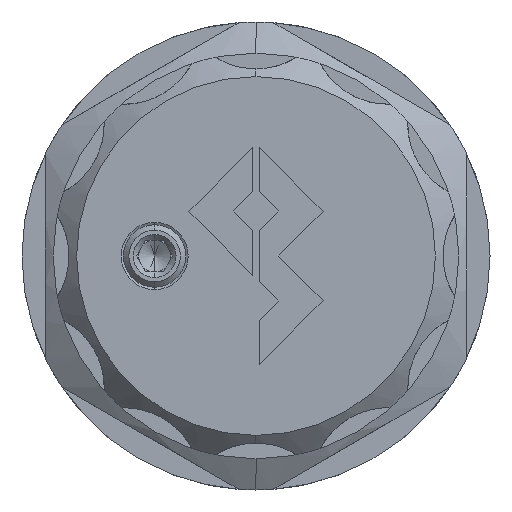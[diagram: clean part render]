
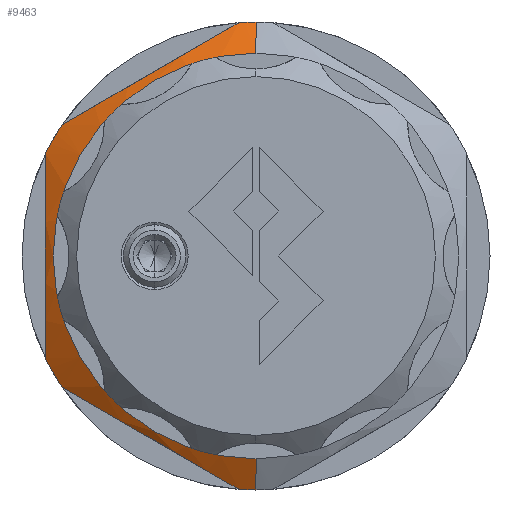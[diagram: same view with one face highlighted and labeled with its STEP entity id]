
A CAD part, left-side view. The second image highlights one B-rep face of the part: STEP entity #9463.
In plain terms, the highlighted conical face has half-angle 60 degrees and reference radius 13 mm.
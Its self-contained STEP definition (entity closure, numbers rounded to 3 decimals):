
#92 = FACE_OUTER_BOUND ( 'NONE', #4406, .T. ) ;
#288 = VERTEX_POINT ( 'NONE', #4157 ) ;
#382 = CARTESIAN_POINT ( 'NONE',  ( 13.29, 5.777, 12.253 ) ) ;
#424 = B_SPLINE_CURVE_WITH_KNOTS ( 'NONE', 3,
 ( #10836, #3110, #3903, #7322, #8121, #4860, #1223, #3001, #3061, #6544 ),
 .UNSPECIFIED., .F., .F.,
 ( 4, 2, 2, 2, 4 ),
 ( 0., 0.003, 0.007, 0.01, 0.013 ),
 .UNSPECIFIED. ) ;
#495 = CARTESIAN_POINT ( 'NONE',  ( 13.667, 2.951, 13.885 ) ) ;
#619 = ORIENTED_EDGE ( 'NONE', *, *, #2990, .T. ) ;
#790 = DIRECTION ( 'NONE',  ( 0., 0., 1. ) ) ;
#1186 = VERTEX_POINT ( 'NONE', #11090 ) ;
#1212 = VERTEX_POINT ( 'NONE', #10480 ) ;
#1223 = CARTESIAN_POINT ( 'NONE',  ( 13.367, 4.854, -12.786 ) ) ;
#1404 = CIRCLE ( 'NONE', #7726, 15. ) ;
#1430 = ORIENTED_EDGE ( 'NONE', *, *, #10614, .T. ) ;
#1436 = CARTESIAN_POINT ( 'NONE',  ( 14.155, 0., 0. ) ) ;
#1489 = CIRCLE ( 'NONE', #7815, 15. ) ;
#1493 = CARTESIAN_POINT ( 'NONE',  ( 13., 0., -13. ) ) ;
#1521 = CARTESIAN_POINT ( 'NONE',  ( 14.155, 13.5, -6.538 ) ) ;
#1609 = DIRECTION ( 'NONE',  ( -1., 0., 0. ) ) ;
#1730 = DIRECTION ( 'NONE',  ( 0., 0., 1. ) ) ;
#1789 = EDGE_CURVE ( 'NONE', #7580, #6195, #1489, .T. ) ;
#1951 = ORIENTED_EDGE ( 'NONE', *, *, #3534, .T. ) ;
#2119 = ORIENTED_EDGE ( 'NONE', *, *, #1789, .T. ) ;
#2164 = CARTESIAN_POINT ( 'NONE',  ( 13.885, 2.017, 14.424 ) ) ;
#2283 = CARTESIAN_POINT ( 'NONE',  ( 13., 0., 13. ) ) ;
#2334 = CARTESIAN_POINT ( 'NONE',  ( 13.886, 13.5, -5.47 ) ) ;
#2393 = CARTESIAN_POINT ( 'NONE',  ( 13.443, 13.5, 2.75 ) ) ;
#2446 = CARTESIAN_POINT ( 'NONE',  ( 13.289, 13.5, -1.099 ) ) ;
#2541 = ORIENTED_EDGE ( 'NONE', *, *, #5699, .T. ) ;
#2616 = CARTESIAN_POINT ( 'NONE',  ( 13., 0., 0. ) ) ;
#2830 = AXIS2_PLACEMENT_3D ( 'NONE', #6923, #5445, #1730 ) ;
#2990 = EDGE_CURVE ( 'NONE', #6195, #1186, #424, .T. ) ;
#3001 = CARTESIAN_POINT ( 'NONE',  ( 13.665, 2.958, -13.881 ) ) ;
#3061 = CARTESIAN_POINT ( 'NONE',  ( 13.884, 2.019, -14.423 ) ) ;
#3110 = CARTESIAN_POINT ( 'NONE',  ( 13.885, 11.483, -8.959 ) ) ;
#3228 = ORIENTED_EDGE ( 'NONE', *, *, #7015, .T. ) ;
#3309 = CARTESIAN_POINT ( 'NONE',  ( 13.367, 13.5, -2.194 ) ) ;
#3530 = CARTESIAN_POINT ( 'NONE',  ( 14.155, 0., 15. ) ) ;
#3534 = EDGE_CURVE ( 'NONE', #5981, #288, #1404, .T. ) ;
#3590 = DIRECTION ( 'NONE',  ( 1., 0., 0. ) ) ;
#3643 = LINE ( 'NONE', #6178, #9875 ) ;
#3838 = EDGE_CURVE ( 'NONE', #5397, #5981, #3643, .T. ) ;
#3903 = CARTESIAN_POINT ( 'NONE',  ( 13.667, 10.549, -9.498 ) ) ;
#3919 = AXIS2_PLACEMENT_3D ( 'NONE', #7377, #10672, #4600 ) ;
#3973 = B_SPLINE_CURVE_WITH_KNOTS ( 'NONE', 3,
 ( #6448, #2164, #495, #9061, #382, #5526, #7287, #10750, #4669, #3983 ),
 .UNSPECIFIED., .F., .F.,
 ( 4, 2, 2, 2, 4 ),
 ( 0., 0.003, 0.007, 0.01, 0.013 ),
 .UNSPECIFIED. ) ;
#3983 = CARTESIAN_POINT ( 'NONE',  ( 14.155, 12.412, 8.422 ) ) ;
#4157 = CARTESIAN_POINT ( 'NONE',  ( 14.155, 1.088, 14.961 ) ) ;
#4406 = EDGE_LOOP ( 'NONE', ( #6240, #7818, #1951, #2541, #1430, #5244, #2119, #619, #3228, #5398 ) ) ;
#4516 = VERTEX_POINT ( 'NONE', #5311 ) ;
#4600 = DIRECTION ( 'NONE',  ( 0., 0., 1. ) ) ;
#4669 = CARTESIAN_POINT ( 'NONE',  ( 13.884, 11.481, 8.96 ) ) ;
#4860 = CARTESIAN_POINT ( 'NONE',  ( 13.288, 5.818, -12.23 ) ) ;
#5244 = ORIENTED_EDGE ( 'NONE', *, *, #6506, .T. ) ;
#5311 = CARTESIAN_POINT ( 'NONE',  ( 14.155, 12.412, 8.422 ) ) ;
#5397 = VERTEX_POINT ( 'NONE', #2283 ) ;
#5398 = ORIENTED_EDGE ( 'NONE', *, *, #6560, .F. ) ;
#5445 = DIRECTION ( 'NONE',  ( -1., 0., 0. ) ) ;
#5526 = CARTESIAN_POINT ( 'NONE',  ( 13.288, 7.682, 11.153 ) ) ;
#5535 = CONICAL_SURFACE ( 'NONE', #7496, 13., 1.047 ) ;
#5699 = EDGE_CURVE ( 'NONE', #288, #4516, #3973, .T. ) ;
#5729 = CIRCLE ( 'NONE', #3919, 15. ) ;
#5774 = AXIS2_PLACEMENT_3D ( 'NONE', #1436, #1609, #7476 ) ;
#5812 = CARTESIAN_POINT ( 'NONE',  ( 14.155, 12.412, -8.422 ) ) ;
#5853 = CARTESIAN_POINT ( 'NONE',  ( 13.669, 13.5, 4.398 ) ) ;
#5911 = CARTESIAN_POINT ( 'NONE',  ( 14.155, 13.5, 6.538 ) ) ;
#5952 = CIRCLE ( 'NONE', #5774, 15. ) ;
#5981 = VERTEX_POINT ( 'NONE', #3530 ) ;
#6015 = DIRECTION ( 'NONE',  ( -1., 0., 0. ) ) ;
#6017 = VECTOR ( 'NONE', #8183, 1000. ) ;
#6178 = CARTESIAN_POINT ( 'NONE',  ( 13., 0., 13. ) ) ;
#6195 = VERTEX_POINT ( 'NONE', #5812 ) ;
#6240 = ORIENTED_EDGE ( 'NONE', *, *, #8793, .F. ) ;
#6448 = CARTESIAN_POINT ( 'NONE',  ( 14.155, 1.088, 14.961 ) ) ;
#6506 = EDGE_CURVE ( 'NONE', #7151, #7580, #7169, .T. ) ;
#6544 = CARTESIAN_POINT ( 'NONE',  ( 14.155, 1.088, -14.961 ) ) ;
#6560 = EDGE_CURVE ( 'NONE', #7166, #1212, #8293, .T. ) ;
#6681 = CARTESIAN_POINT ( 'NONE',  ( 13.308, 13.5, 1.097 ) ) ;
#6878 = CARTESIAN_POINT ( 'NONE',  ( 14.155, 13.5, -6.538 ) ) ;
#6923 = CARTESIAN_POINT ( 'NONE',  ( 13., 0., 0. ) ) ;
#7015 = EDGE_CURVE ( 'NONE', #1186, #1212, #5729, .T. ) ;
#7151 = VERTEX_POINT ( 'NONE', #10884 ) ;
#7160 = DIRECTION ( 'NONE',  ( 0.5, 0., 0.866 ) ) ;
#7166 = VERTEX_POINT ( 'NONE', #1493 ) ;
#7169 = B_SPLINE_CURVE_WITH_KNOTS ( 'NONE', 3,
 ( #5911, #10061, #5853, #2393, #7511, #6681, #11030, #2446, #3309, #9278, #2334, #1521 ),
 .UNSPECIFIED., .F., .F.,
 ( 4, 2, 2, 2, 2, 4 ),
 ( 0.009, 0.012, 0.014, 0.015, 0.018, 0.022 ),
 .UNSPECIFIED. ) ;
#7287 = CARTESIAN_POINT ( 'NONE',  ( 13.367, 8.646, 10.597 ) ) ;
#7322 = CARTESIAN_POINT ( 'NONE',  ( 13.37, 8.669, -10.583 ) ) ;
#7377 = CARTESIAN_POINT ( 'NONE',  ( 14.155, 0., 0. ) ) ;
#7476 = DIRECTION ( 'NONE',  ( 0., 0., 1. ) ) ;
#7496 = AXIS2_PLACEMENT_3D ( 'NONE', #2616, #3590, #10464 ) ;
#7511 = CARTESIAN_POINT ( 'NONE',  ( 13.385, 13.5, 2.198 ) ) ;
#7580 = VERTEX_POINT ( 'NONE', #6878 ) ;
#7726 = AXIS2_PLACEMENT_3D ( 'NONE', #8594, #6015, #9450 ) ;
#7751 = CARTESIAN_POINT ( 'NONE',  ( 14.155, 0., 0. ) ) ;
#7815 = AXIS2_PLACEMENT_3D ( 'NONE', #7751, #9633, #790 ) ;
#7818 = ORIENTED_EDGE ( 'NONE', *, *, #3838, .T. ) ;
#8121 = CARTESIAN_POINT ( 'NONE',  ( 13.29, 7.723, -11.129 ) ) ;
#8183 = DIRECTION ( 'NONE',  ( 0.5, 0., -0.866 ) ) ;
#8293 = LINE ( 'NONE', #10733, #6017 ) ;
#8594 = CARTESIAN_POINT ( 'NONE',  ( 14.155, 0., 0. ) ) ;
#8793 = EDGE_CURVE ( 'NONE', #5397, #7166, #10194, .T. ) ;
#9061 = CARTESIAN_POINT ( 'NONE',  ( 13.37, 4.831, 12.799 ) ) ;
#9278 = CARTESIAN_POINT ( 'NONE',  ( 13.665, 13.5, -4.377 ) ) ;
#9450 = DIRECTION ( 'NONE',  ( 0., 0., 1. ) ) ;
#9463 = ADVANCED_FACE ( 'NONE', ( #92 ), #5535, .T. ) ;
#9633 = DIRECTION ( 'NONE',  ( -1., 0., 0. ) ) ;
#9875 = VECTOR ( 'NONE', #7160, 1000. ) ;
#10061 = CARTESIAN_POINT ( 'NONE',  ( 13.887, 13.5, 5.475 ) ) ;
#10194 = CIRCLE ( 'NONE', #2830, 13. ) ;
#10464 = DIRECTION ( 'NONE',  ( 0., 0., -1. ) ) ;
#10480 = CARTESIAN_POINT ( 'NONE',  ( 14.155, 0., -15. ) ) ;
#10614 = EDGE_CURVE ( 'NONE', #4516, #7151, #5952, .T. ) ;
#10672 = DIRECTION ( 'NONE',  ( -1., 0., 0. ) ) ;
#10733 = CARTESIAN_POINT ( 'NONE',  ( 13., 0., -13. ) ) ;
#10750 = CARTESIAN_POINT ( 'NONE',  ( 13.665, 10.542, 9.502 ) ) ;
#10836 = CARTESIAN_POINT ( 'NONE',  ( 14.155, 12.412, -8.422 ) ) ;
#10884 = CARTESIAN_POINT ( 'NONE',  ( 14.155, 13.5, 6.538 ) ) ;
#11030 = CARTESIAN_POINT ( 'NONE',  ( 13.289, 13.5, 0.547 ) ) ;
#11090 = CARTESIAN_POINT ( 'NONE',  ( 14.155, 1.088, -14.961 ) ) ;
